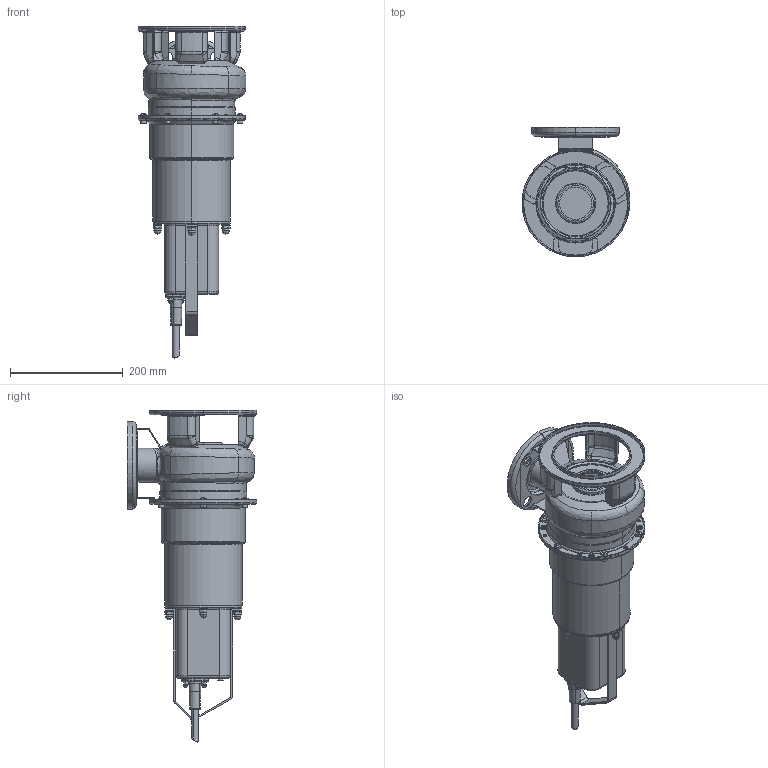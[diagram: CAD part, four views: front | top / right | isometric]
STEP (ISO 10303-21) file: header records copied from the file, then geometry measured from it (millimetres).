
FILE_DESCRIPTION((''),'2;1');
FILE_NAME('DWF_M_756_ASM','2014-04-27T',('Rosa'),('"Ebara Pumps Europe +39.444.706811"'),'PRO/ENGINEER BY PARAMETRIC TECHNOLOGY CORPORATION, 2009360','PRO/ENGINEER BY PARAMETRIC TECHNOLOGY CORPORATION, 2009360','');
FILE_SCHEMA(('AUTOMOTIVE_DESIGN { 1 0 10303 214 1 1 1 1 }'));
Length unit declared in the file: millimetre
Products named in the file (18): 20698; DADO_A_SALDARE_M6; DADO_M5; 62032; 20986; 20985; 20987_ASM; 15032; 72074; CORPO_POMPA_DWF_ASM; CASSA_MOTORE_BASSA; COPERCHIO_MOTORE_H125; 60024; 6602X_SEMPLICE; 65017_SEMPLICE; DADO_CALOTTA_M5; VITE_TCC_M5X8_UNI7687; DWF_M_756_ASM
Assembly tree (28 placements, depth 4):
  DWF_M_756_ASM
    CORPO_POMPA_DWF_ASM
      20698
      DADO_A_SALDARE_M6  x6
      DADO_M5  x4
      62032
      20987_ASM
        20986
        20985
      15032
      72074  x3
    CASSA_MOTORE_BASSA
    COPERCHIO_MOTORE_H125
    60024
    6602X_SEMPLICE
    65017_SEMPLICE
    DADO_CALOTTA_M5  x2
    VITE_TCC_M5X8_UNI7687
Bounding box: 191.31 x 230 x 588.39 mm (x, y, z)
Volume: 4591761.8 mm3; surface area: 644744.3 mm2
Topology: 26 solids, 29 shells, 1143 faces, 2636 edges, 1606 vertices
Faces by surface type: plane 368, cylinder 333, bspline 170, torus 133, cone 109, sphere 26, extrusion 4
Entity records: 45325 total; most frequent: CARTESIAN_POINT 14056, DIRECTION 4394, ORIENTED_EDGE 4060, PRESENTATION_STYLE_ASSIGNMENT 2048, STYLED_ITEM 2048, CURVE_STYLE 2032, EDGE_CURVE 2032, AXIS2_PLACEMENT_3D 1841
